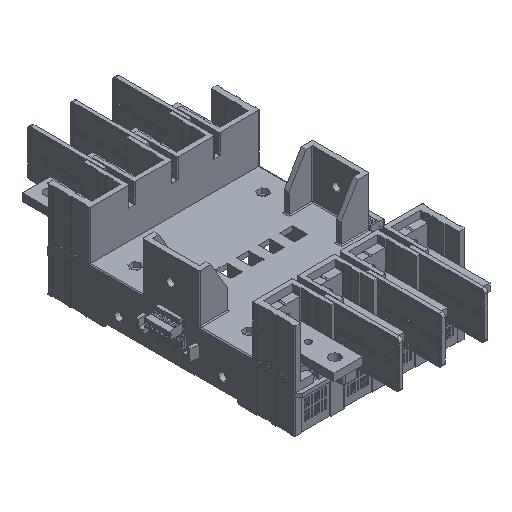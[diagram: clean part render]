
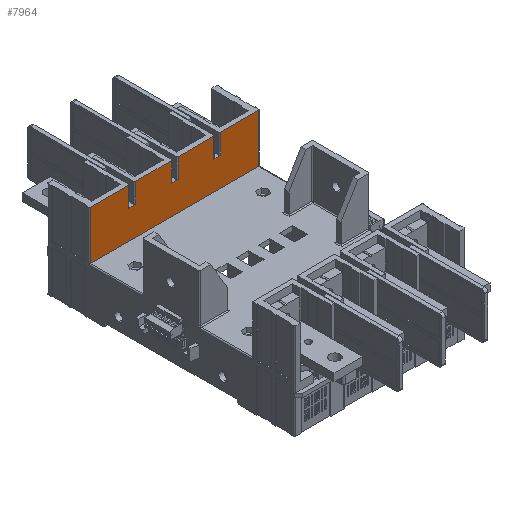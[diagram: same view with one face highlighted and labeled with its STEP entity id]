
A CAD part, isometric view. The second image highlights one B-rep face of the part: STEP entity #7964.
In plain terms, the highlighted planar face has unit normal (0, -1, 0).
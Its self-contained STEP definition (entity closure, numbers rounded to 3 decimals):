
#101 = VERTEX_POINT ( 'NONE', #466 ) ;
#313 = CARTESIAN_POINT ( 'NONE',  ( 135., 171.5, 50. ) ) ;
#466 = CARTESIAN_POINT ( 'NONE',  ( 48.6, 171.5, 80.5 ) ) ;
#483 = VECTOR ( 'NONE', #113372, 1000. ) ;
#964 = VERTEX_POINT ( 'NONE', #26796 ) ;
#2826 = CARTESIAN_POINT ( 'NONE',  ( 48.6, 171.5, 101.5 ) ) ;
#3779 = CARTESIAN_POINT ( 'NONE',  ( 86.4, 171.5, 101.5 ) ) ;
#5941 = CARTESIAN_POINT ( 'NONE',  ( 93.6, 171.5, -111.719 ) ) ;
#6754 = VECTOR ( 'NONE', #21246, 1000. ) ;
#7101 = DIRECTION ( 'NONE',  ( 0., 0., -1. ) ) ;
#7964 = ADVANCED_FACE ( 'NONE', ( #75846 ), #89728, .F. ) ;
#9075 = CARTESIAN_POINT ( 'NONE',  ( 1., 171.5, 101.5 ) ) ;
#10717 = ORIENTED_EDGE ( 'NONE', *, *, #100603, .F. ) ;
#11420 = EDGE_CURVE ( 'NONE', #114624, #160302, #22519, .T. ) ;
#13854 = VECTOR ( 'NONE', #51978, 1000. ) ;
#14877 = VECTOR ( 'NONE', #83107, 1000. ) ;
#17759 = EDGE_CURVE ( 'NONE', #68270, #49735, #100450, .T. ) ;
#18513 = CARTESIAN_POINT ( 'NONE',  ( 86.4, 171.5, -111.719 ) ) ;
#19832 = CARTESIAN_POINT ( 'NONE',  ( -5.599, 171.5, 80.5 ) ) ;
#20179 = EDGE_CURVE ( 'NONE', #117069, #41165, #49918, .T. ) ;
#21246 = DIRECTION ( 'NONE',  ( 1., 0., 0. ) ) ;
#22336 = ORIENTED_EDGE ( 'NONE', *, *, #122220, .F. ) ;
#22519 = LINE ( 'NONE', #88099, #117468 ) ;
#22892 = LINE ( 'NONE', #158066, #150819 ) ;
#23283 = EDGE_CURVE ( 'NONE', #97026, #964, #151834, .T. ) ;
#25043 = VECTOR ( 'NONE', #7101, 1000. ) ;
#25525 = VERTEX_POINT ( 'NONE', #112693 ) ;
#26796 = CARTESIAN_POINT ( 'NONE',  ( 138.6, 171.5, 80.5 ) ) ;
#30529 = ORIENTED_EDGE ( 'NONE', *, *, #38587, .F. ) ;
#30669 = VERTEX_POINT ( 'NONE', #92273 ) ;
#32175 = ORIENTED_EDGE ( 'NONE', *, *, #48706, .F. ) ;
#32731 = DIRECTION ( 'NONE',  ( 1., 0., 0. ) ) ;
#35116 = VECTOR ( 'NONE', #41126, 1000. ) ;
#35530 = DIRECTION ( 'NONE',  ( 0., 0., 1. ) ) ;
#36059 = CARTESIAN_POINT ( 'NONE',  ( 138.6, 171.5, -111.719 ) ) ;
#36683 = AXIS2_PLACEMENT_3D ( 'NONE', #102208, #140125, #77276 ) ;
#38587 = EDGE_CURVE ( 'NONE', #964, #127565, #134743, .T. ) ;
#41126 = DIRECTION ( 'NONE',  ( 0., 0., 1. ) ) ;
#41165 = VERTEX_POINT ( 'NONE', #130927 ) ;
#43387 = EDGE_CURVE ( 'NONE', #101, #108277, #22892, .T. ) ;
#45002 = CARTESIAN_POINT ( 'NONE',  ( 179., 171.5, 101.5 ) ) ;
#45751 = ORIENTED_EDGE ( 'NONE', *, *, #99564, .F. ) ;
#45813 = DIRECTION ( 'NONE',  ( 1., 0., 0. ) ) ;
#47821 = VECTOR ( 'NONE', #50068, 1000. ) ;
#47883 = ORIENTED_EDGE ( 'NONE', *, *, #17759, .F. ) ;
#48620 = ORIENTED_EDGE ( 'NONE', *, *, #20179, .F. ) ;
#48706 = EDGE_CURVE ( 'NONE', #119653, #117069, #124450, .T. ) ;
#49125 = CARTESIAN_POINT ( 'NONE',  ( 1., 171.5, -111.719 ) ) ;
#49735 = VERTEX_POINT ( 'NONE', #111126 ) ;
#49918 = LINE ( 'NONE', #136138, #131407 ) ;
#50068 = DIRECTION ( 'NONE',  ( -1., 0., 0. ) ) ;
#50746 = DIRECTION ( 'NONE',  ( 0., 0., -1. ) ) ;
#51978 = DIRECTION ( 'NONE',  ( 1., 0., 0. ) ) ;
#52720 = LINE ( 'NONE', #88527, #101267 ) ;
#54381 = ORIENTED_EDGE ( 'NONE', *, *, #112483, .F. ) ;
#56732 = CARTESIAN_POINT ( 'NONE',  ( 41.4, 171.5, 101.5 ) ) ;
#57596 = CARTESIAN_POINT ( 'NONE',  ( -5.599, 171.5, 101.5 ) ) ;
#61776 = LINE ( 'NONE', #18513, #25043 ) ;
#62086 = DIRECTION ( 'NONE',  ( 0., 0., 1. ) ) ;
#66379 = CARTESIAN_POINT ( 'NONE',  ( -5.599, 171.5, 101.5 ) ) ;
#68270 = VERTEX_POINT ( 'NONE', #107916 ) ;
#71559 = EDGE_CURVE ( 'NONE', #49735, #97026, #105031, .T. ) ;
#75846 = FACE_OUTER_BOUND ( 'NONE', #138101, .T. ) ;
#77224 = DIRECTION ( 'NONE',  ( 1., 0., 0. ) ) ;
#77276 = DIRECTION ( 'NONE',  ( 1., 0., 0. ) ) ;
#77572 = VERTEX_POINT ( 'NONE', #129927 ) ;
#80426 = VECTOR ( 'NONE', #35530, 1000. ) ;
#83107 = DIRECTION ( 'NONE',  ( 1., 0., 0. ) ) ;
#83516 = CARTESIAN_POINT ( 'NONE',  ( -5.599, 171.5, 80.5 ) ) ;
#83789 = DIRECTION ( 'NONE',  ( 0., 0., 1. ) ) ;
#85036 = CARTESIAN_POINT ( 'NONE',  ( 138.6, 171.5, 101.5 ) ) ;
#85367 = ORIENTED_EDGE ( 'NONE', *, *, #23283, .F. ) ;
#87845 = DIRECTION ( 'NONE',  ( 0., 0., -1. ) ) ;
#88099 = CARTESIAN_POINT ( 'NONE',  ( 179., 171.5, -111.719 ) ) ;
#88381 = CARTESIAN_POINT ( 'NONE',  ( 131.4, 171.5, -111.719 ) ) ;
#88489 = LINE ( 'NONE', #107709, #14877 ) ;
#88527 = CARTESIAN_POINT ( 'NONE',  ( -5.599, 171.5, 80.5 ) ) ;
#89368 = VECTOR ( 'NONE', #77224, 1000. ) ;
#89728 = PLANE ( 'NONE',  #36683 ) ;
#89832 = ORIENTED_EDGE ( 'NONE', *, *, #43387, .F. ) ;
#92273 = CARTESIAN_POINT ( 'NONE',  ( 86.4, 171.5, 80.5 ) ) ;
#96935 = EDGE_CURVE ( 'NONE', #41165, #101, #52720, .T. ) ;
#97026 = VERTEX_POINT ( 'NONE', #104753 ) ;
#97735 = ORIENTED_EDGE ( 'NONE', *, *, #142979, .F. ) ;
#99125 = ORIENTED_EDGE ( 'NONE', *, *, #112515, .F. ) ;
#99564 = EDGE_CURVE ( 'NONE', #139646, #30669, #61776, .T. ) ;
#100450 = LINE ( 'NONE', #57596, #150853 ) ;
#100603 = EDGE_CURVE ( 'NONE', #160302, #77572, #152636, .T. ) ;
#101033 = LINE ( 'NONE', #5941, #35116 ) ;
#101267 = VECTOR ( 'NONE', #152505, 1000. ) ;
#102208 = CARTESIAN_POINT ( 'NONE',  ( -5.599, 171.5, -111.719 ) ) ;
#104753 = CARTESIAN_POINT ( 'NONE',  ( 131.4, 171.5, 80.5 ) ) ;
#105031 = LINE ( 'NONE', #88381, #483 ) ;
#107709 = CARTESIAN_POINT ( 'NONE',  ( -5.599, 171.5, 101.5 ) ) ;
#107916 = CARTESIAN_POINT ( 'NONE',  ( 93.6, 171.5, 101.5 ) ) ;
#108277 = VERTEX_POINT ( 'NONE', #2826 ) ;
#110837 = LINE ( 'NONE', #49125, #116567 ) ;
#111126 = CARTESIAN_POINT ( 'NONE',  ( 131.4, 171.5, 101.5 ) ) ;
#112483 = EDGE_CURVE ( 'NONE', #127565, #114624, #120486, .T. ) ;
#112515 = EDGE_CURVE ( 'NONE', #25525, #68270, #101033, .T. ) ;
#112693 = CARTESIAN_POINT ( 'NONE',  ( 93.6, 171.5, 80.5 ) ) ;
#113372 = DIRECTION ( 'NONE',  ( 0., 0., -1. ) ) ;
#113781 = CARTESIAN_POINT ( 'NONE',  ( -5.599, 171.5, 101.5 ) ) ;
#114624 = VERTEX_POINT ( 'NONE', #45002 ) ;
#116567 = VECTOR ( 'NONE', #62086, 1000. ) ;
#117069 = VERTEX_POINT ( 'NONE', #56732 ) ;
#117468 = VECTOR ( 'NONE', #50746, 1000. ) ;
#118855 = VECTOR ( 'NONE', #45813, 1000. ) ;
#119285 = EDGE_CURVE ( 'NONE', #108277, #139646, #88489, .T. ) ;
#119653 = VERTEX_POINT ( 'NONE', #9075 ) ;
#120486 = LINE ( 'NONE', #113781, #13854 ) ;
#122220 = EDGE_CURVE ( 'NONE', #30669, #25525, #156010, .T. ) ;
#124450 = LINE ( 'NONE', #66379, #89368 ) ;
#126877 = ORIENTED_EDGE ( 'NONE', *, *, #119285, .F. ) ;
#127565 = VERTEX_POINT ( 'NONE', #85036 ) ;
#129927 = CARTESIAN_POINT ( 'NONE',  ( 1., 171.5, 50. ) ) ;
#130927 = CARTESIAN_POINT ( 'NONE',  ( 41.4, 171.5, 80.5 ) ) ;
#131407 = VECTOR ( 'NONE', #87845, 1000. ) ;
#133888 = CARTESIAN_POINT ( 'NONE',  ( 179., 171.5, 50. ) ) ;
#134743 = LINE ( 'NONE', #36059, #80426 ) ;
#136138 = CARTESIAN_POINT ( 'NONE',  ( 41.4, 171.5, -111.719 ) ) ;
#138101 = EDGE_LOOP ( 'NONE', ( #54381, #30529, #85367, #145634, #47883, #99125, #22336, #45751, #126877, #89832, #147701, #48620, #32175, #97735, #10717, #149113 ) ) ;
#139646 = VERTEX_POINT ( 'NONE', #3779 ) ;
#140125 = DIRECTION ( 'NONE',  ( 0., 1., 0. ) ) ;
#142979 = EDGE_CURVE ( 'NONE', #77572, #119653, #110837, .T. ) ;
#145634 = ORIENTED_EDGE ( 'NONE', *, *, #71559, .F. ) ;
#147701 = ORIENTED_EDGE ( 'NONE', *, *, #96935, .F. ) ;
#149113 = ORIENTED_EDGE ( 'NONE', *, *, #11420, .F. ) ;
#150819 = VECTOR ( 'NONE', #83789, 1000. ) ;
#150853 = VECTOR ( 'NONE', #32731, 1000. ) ;
#151834 = LINE ( 'NONE', #19832, #118855 ) ;
#152505 = DIRECTION ( 'NONE',  ( 1., 0., 0. ) ) ;
#152636 = LINE ( 'NONE', #313, #47821 ) ;
#156010 = LINE ( 'NONE', #83516, #6754 ) ;
#158066 = CARTESIAN_POINT ( 'NONE',  ( 48.6, 171.5, -111.719 ) ) ;
#160302 = VERTEX_POINT ( 'NONE', #133888 ) ;
